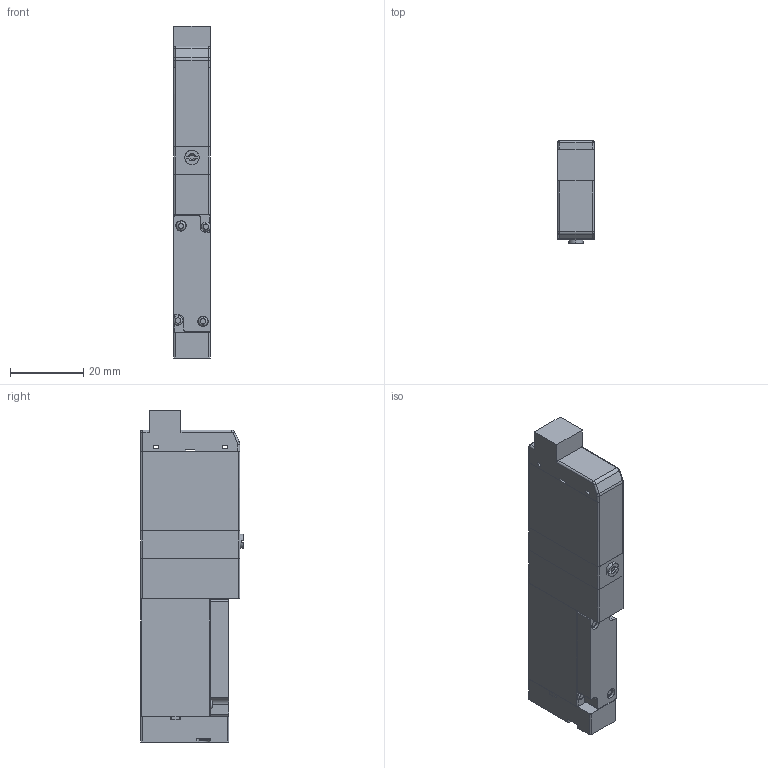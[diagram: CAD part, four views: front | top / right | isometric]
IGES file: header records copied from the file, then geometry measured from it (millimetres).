
Start section: ------------------------------------------------------------------------
Global section: file name: D:\ICADMX\tmp\trans3d_spg\CVICAD02.18204.F10T0-A1-PN_8363.igs; native system: spGate; preprocessor: ver12.6.6; author: Unknown; organization: Unknown; date: 200901.142322; units: millimetre
Bounding box: 10.2 x 28 x 90.5 mm (x, y, z)
Volume: 21743.7 mm3; surface area: 9968.5 mm2
Topology: 6 solids, 6 shells, 202 faces, 502 edges, 326 vertices
Faces by surface type: bspline 202
